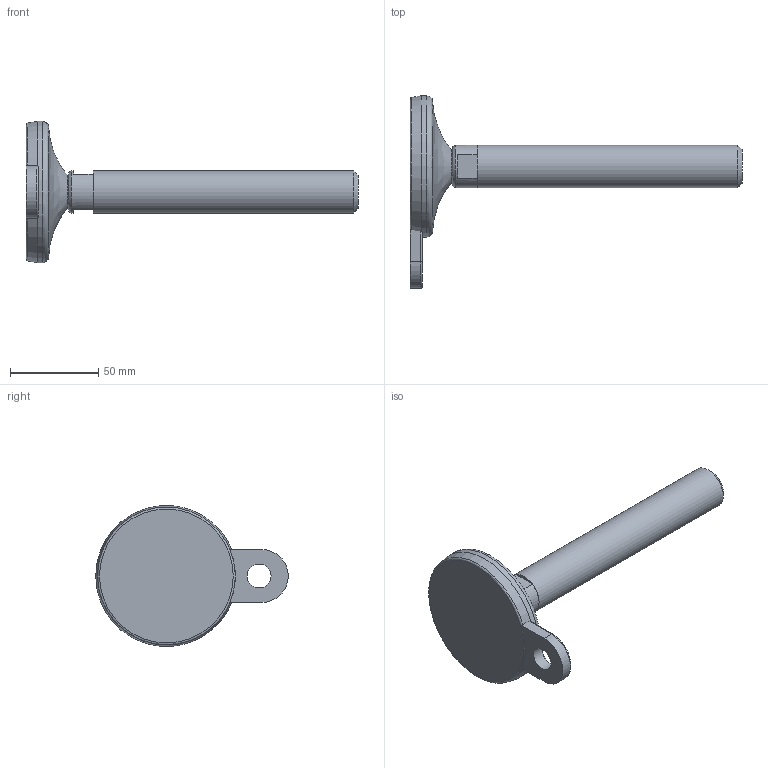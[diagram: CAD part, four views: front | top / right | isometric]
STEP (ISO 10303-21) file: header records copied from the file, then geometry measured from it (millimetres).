
FILE_DESCRIPTION(('STEP AP203'),'2;1');
FILE_NAME('25076-F.stp','2014-02-28T08:03:19',(''),(''),'2008.1.107','THINKDESIGN','');
FILE_SCHEMA(('CONFIG_CONTROL_DESIGN'));
Length unit declared in the file: millimetre
Bounding box: 188 x 109 x 80 mm (x, y, z)
Volume: 154459.4 mm3; surface area: 29230.5 mm2
Topology: 4 solids, 4 shells, 31 faces, 74 edges, 51 vertices
Faces by surface type: plane 14, bspline 9, cylinder 8
Full cylindrical faces by diameter (mm): 13.5 x1, 24 x2, 80 x1
Entity records: 1769 total; most frequent: CARTESIAN_POINT 935, DIRECTION 163, ORIENTED_EDGE 148, EDGE_CURVE 74, AXIS2_PLACEMENT_3D 69, VERTEX_POINT 51, CIRCLE 47, EDGE_LOOP 33
